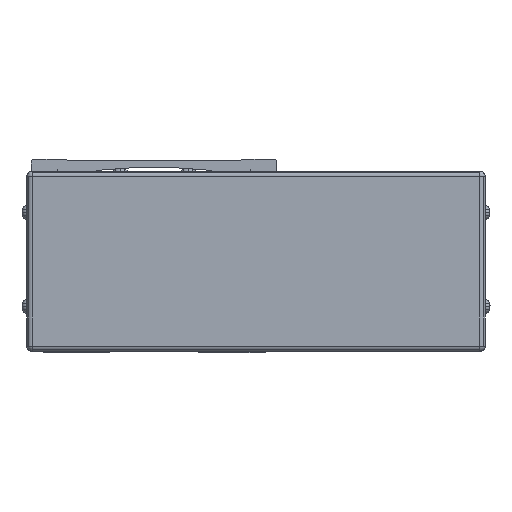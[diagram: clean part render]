
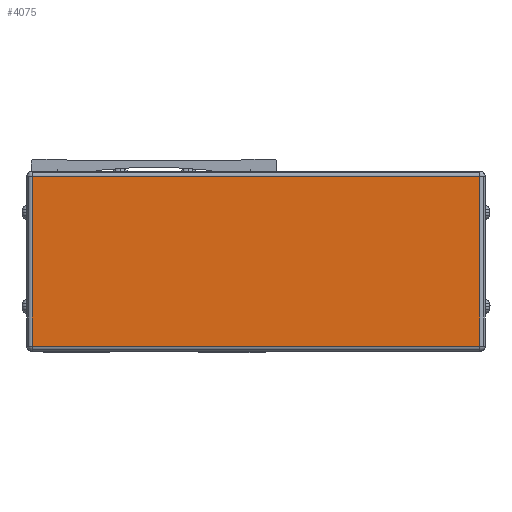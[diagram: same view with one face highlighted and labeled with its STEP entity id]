
A CAD part, front view. The second image highlights one B-rep face of the part: STEP entity #4075.
In plain terms, the highlighted planar face has unit normal (0, -1, 0).
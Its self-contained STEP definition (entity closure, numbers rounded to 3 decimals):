
#4075=ADVANCED_FACE('',(#9160),#9161,.T.);
#9160=FACE_OUTER_BOUND('',#16462,.T.);
#9161=PLANE('',#16463);
#16462=EDGE_LOOP('',(#28356,#28357,#28358,#28359));
#16463=AXIS2_PLACEMENT_3D('',#28360,#28361,#28362);
#28356=ORIENTED_EDGE('',*,*,#43129,.F.);
#28357=ORIENTED_EDGE('',*,*,#41326,.F.);
#28358=ORIENTED_EDGE('',*,*,#43130,.F.);
#28359=ORIENTED_EDGE('',*,*,#43131,.F.);
#28360=CARTESIAN_POINT('',(39.,-338.778,-42.5));
#28361=DIRECTION('',(0.0,-1.0,0.0));
#28362=DIRECTION('',(1.0,0.0,0.0));
#41326=EDGE_CURVE('',#50353,#49552,#50355,.T.);
#43129=EDGE_CURVE('',#49552,#48480,#53065,.T.);
#43130=EDGE_CURVE('',#53066,#50353,#53067,.T.);
#43131=EDGE_CURVE('',#48480,#53066,#53068,.T.);
#48480=VERTEX_POINT('',#60297);
#49552=VERTEX_POINT('',#62030);
#50353=VERTEX_POINT('',#63260);
#50355=LINE('',#63262,#63263);
#53065=LINE('',#67459,#67460);
#53066=VERTEX_POINT('',#67461);
#53067=LINE('',#67462,#67463);
#53068=LINE('',#67464,#67465);
#60297=CARTESIAN_POINT('',(-46.7,-338.778,-40.5));
#62030=CARTESIAN_POINT('',(124.7,-338.778,-40.5));
#63260=CARTESIAN_POINT('',(124.7,-338.778,24.5));
#63262=CARTESIAN_POINT('',(124.7,-338.778,-42.5));
#63263=VECTOR('',#75825,10.0);
#67459=CARTESIAN_POINT('',(39.,-338.778,-40.5));
#67460=VECTOR('',#77898,10.0);
#67461=CARTESIAN_POINT('',(-46.7,-338.778,24.5));
#67462=CARTESIAN_POINT('',(39.,-338.778,24.5));
#67463=VECTOR('',#77899,10.0);
#67464=CARTESIAN_POINT('',(-46.7,-338.778,-42.5));
#67465=VECTOR('',#77900,10.0);
#75825=DIRECTION('',(0.0,0.0,-1.0));
#77898=DIRECTION('',(-1.0,0.0,0.0));
#77899=DIRECTION('',(1.0,0.0,0.0));
#77900=DIRECTION('',(0.0,0.0,1.0));
